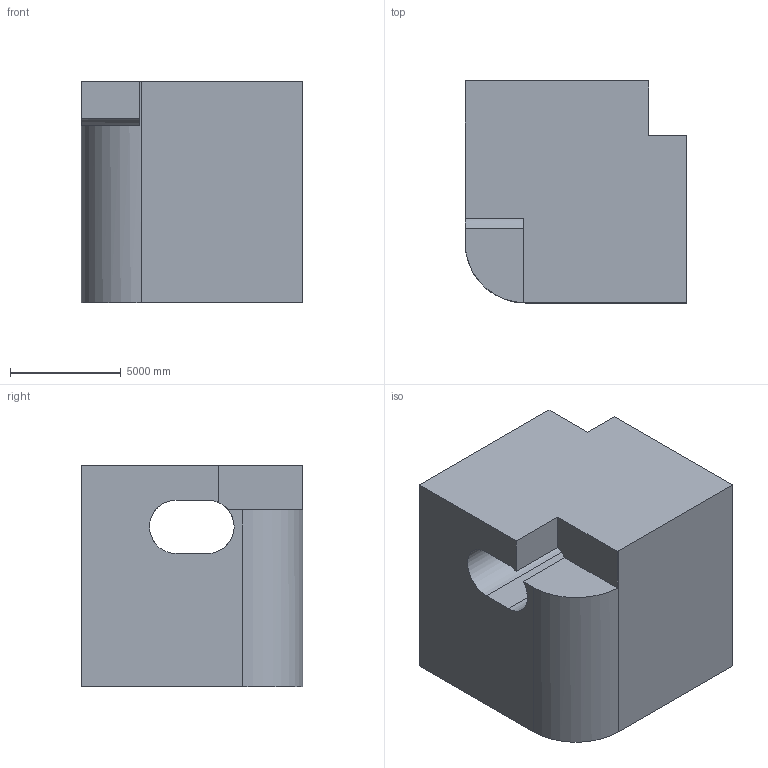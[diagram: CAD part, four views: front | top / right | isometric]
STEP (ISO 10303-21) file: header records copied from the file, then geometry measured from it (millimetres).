
FILE_DESCRIPTION (( 'STEP AP203' ), '1' );
FILE_NAME ('1435.STEP', '2022-08-18T14:27:26', ( 'user' ), ( '' ), 'SwSTEP 2.0', 'SolidWorks 2021', '' );
FILE_SCHEMA (( 'CONFIG_CONTROL_DESIGN' ));
Length unit declared in the file: centimetre
Products named in the file (1): 1435
Bounding box: 10000 x 10000 x 10000 mm (x, y, z)
Volume: 824579055003.5 mm3; surface area: 684031223.9 mm2
Topology: 1 solids, 1 shells, 19 faces, 57 edges, 38 vertices
Faces by surface type: plane 14, cylinder 5
Entity records: 957 total; most frequent: CARTESIAN_POINT 347, ORIENTED_EDGE 114, DIRECTION 108, EDGE_CURVE 57, VECTOR 42, LINE 42, VERTEX_POINT 38, AXIS2_PLACEMENT_3D 33
